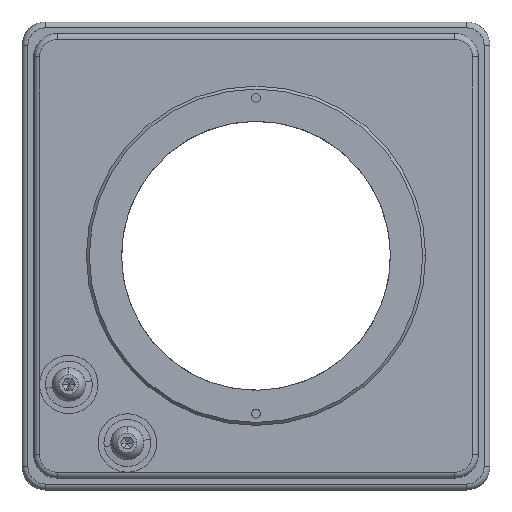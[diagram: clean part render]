
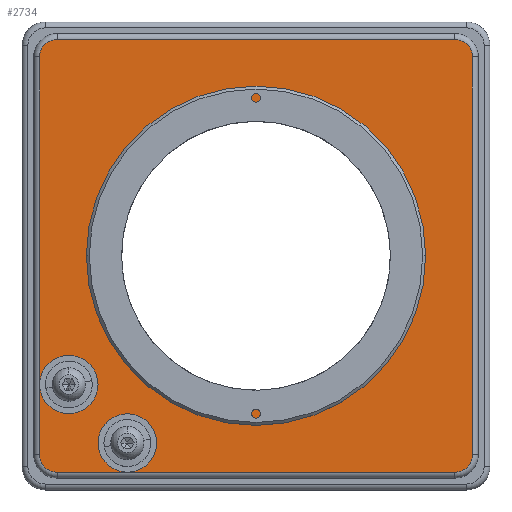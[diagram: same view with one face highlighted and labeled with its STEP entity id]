
A CAD part, top view. The second image highlights one B-rep face of the part: STEP entity #2734.
In plain terms, the highlighted planar face has unit normal (0, 0, 1).
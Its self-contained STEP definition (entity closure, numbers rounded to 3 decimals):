
#64 = ORIENTED_EDGE ( 'NONE', *, *, #5075, .F. ) ;
#97 = ORIENTED_EDGE ( 'NONE', *, *, #2514, .T. ) ;
#241 = EDGE_CURVE ( 'NONE', #3103, #1320, #3964, .T. ) ;
#246 = AXIS2_PLACEMENT_3D ( 'NONE', #5133, #5118, #3968 ) ;
#307 = EDGE_CURVE ( 'NONE', #693, #1641, #5311, .T. ) ;
#540 = AXIS2_PLACEMENT_3D ( 'NONE', #5114, #5024, #4965 ) ;
#693 = VERTEX_POINT ( 'NONE', #7740 ) ;
#713 = LINE ( 'NONE', #6314, #2739 ) ;
#773 = CIRCLE ( 'NONE', #3321, 5. ) ;
#886 = VERTEX_POINT ( 'NONE', #2169 ) ;
#977 = ORIENTED_EDGE ( 'NONE', *, *, #4049, .T. ) ;
#1016 = EDGE_CURVE ( 'NONE', #693, #3817, #7004, .T. ) ;
#1133 = VERTEX_POINT ( 'NONE', #5759 ) ;
#1178 = CARTESIAN_POINT ( 'NONE',  ( -34., -34., 18. ) ) ;
#1291 = EDGE_CURVE ( 'NONE', #1133, #3945, #1798, .T. ) ;
#1320 = VERTEX_POINT ( 'NONE', #7647 ) ;
#1436 = VERTEX_POINT ( 'NONE', #6091 ) ;
#1541 = ORIENTED_EDGE ( 'NONE', *, *, #3202, .T. ) ;
#1570 = DIRECTION ( 'NONE',  ( 1., 0., 0. ) ) ;
#1641 = VERTEX_POINT ( 'NONE', #3670 ) ;
#1771 = DIRECTION ( 'NONE',  ( 0., 0., 1. ) ) ;
#1776 = DIRECTION ( 'NONE',  ( 1., 0., 0. ) ) ;
#1798 = CIRCLE ( 'NONE', #5393, 3. ) ;
#1995 = AXIS2_PLACEMENT_3D ( 'NONE', #5243, #2656, #4781 ) ;
#2009 = CARTESIAN_POINT ( 'NONE',  ( -34., 37., 18. ) ) ;
#2017 = ORIENTED_EDGE ( 'NONE', *, *, #7833, .T. ) ;
#2067 = DIRECTION ( 'NONE',  ( 1., 0., 0. ) ) ;
#2120 = CARTESIAN_POINT ( 'NONE',  ( 34., -37., 18. ) ) ;
#2169 = CARTESIAN_POINT ( 'NONE',  ( -37., 34., 18. ) ) ;
#2270 = CARTESIAN_POINT ( 'NONE',  ( -32., -22., 18. ) ) ;
#2291 = DIRECTION ( 'NONE',  ( 0., 0., 1. ) ) ;
#2314 = LINE ( 'NONE', #2498, #5555 ) ;
#2330 = DIRECTION ( 'NONE',  ( 1., 0., 0. ) ) ;
#2389 = ORIENTED_EDGE ( 'NONE', *, *, #3824, .T. ) ;
#2398 = CARTESIAN_POINT ( 'NONE',  ( -22., -32., 18. ) ) ;
#2460 = AXIS2_PLACEMENT_3D ( 'NONE', #3271, #7291, #7223 ) ;
#2478 = DIRECTION ( 'NONE',  ( 0., -1., 0. ) ) ;
#2498 = CARTESIAN_POINT ( 'NONE',  ( -37., -34., 18. ) ) ;
#2514 = EDGE_CURVE ( 'NONE', #3945, #1436, #8174, .T. ) ;
#2656 = DIRECTION ( 'NONE',  ( 0., 0., 1. ) ) ;
#2702 = VERTEX_POINT ( 'NONE', #3242 ) ;
#2734 = ADVANCED_FACE ( 'NONE', ( #7304, #7193 ), #2916, .T. ) ;
#2739 = VECTOR ( 'NONE', #4944, 1000. ) ;
#2916 = PLANE ( 'NONE',  #1995 ) ;
#2930 = CIRCLE ( 'NONE', #2460, 25.25 ) ;
#3028 = CARTESIAN_POINT ( 'NONE',  ( 25.25, 0., 18. ) ) ;
#3093 = ORIENTED_EDGE ( 'NONE', *, *, #3254, .F. ) ;
#3103 = VERTEX_POINT ( 'NONE', #4089 ) ;
#3131 = CIRCLE ( 'NONE', #540, 25.25 ) ;
#3202 = EDGE_CURVE ( 'NONE', #2702, #1320, #713, .T. ) ;
#3242 = CARTESIAN_POINT ( 'NONE',  ( -34., -37., 18. ) ) ;
#3254 = EDGE_CURVE ( 'NONE', #7475, #7113, #2930, .T. ) ;
#3271 = CARTESIAN_POINT ( 'NONE',  ( 0., 0., 18. ) ) ;
#3281 = ORIENTED_EDGE ( 'NONE', *, *, #4595, .T. ) ;
#3321 = AXIS2_PLACEMENT_3D ( 'NONE', #4588, #4600, #4619 ) ;
#3393 = DIRECTION ( 'NONE',  ( 0., 1., 0. ) ) ;
#3451 = ORIENTED_EDGE ( 'NONE', *, *, #6808, .T. ) ;
#3472 = ORIENTED_EDGE ( 'NONE', *, *, #1291, .T. ) ;
#3489 = ORIENTED_EDGE ( 'NONE', *, *, #1016, .F. ) ;
#3670 = CARTESIAN_POINT ( 'NONE',  ( -37., -34., 18. ) ) ;
#3708 = CARTESIAN_POINT ( 'NONE',  ( 34., 37., 18. ) ) ;
#3719 = AXIS2_PLACEMENT_3D ( 'NONE', #2270, #2291, #2330 ) ;
#3733 = DIRECTION ( 'NONE',  ( 0., 0., 1. ) ) ;
#3817 = VERTEX_POINT ( 'NONE', #4309 ) ;
#3824 = EDGE_CURVE ( 'NONE', #6310, #886, #6852, .T. ) ;
#3862 = VERTEX_POINT ( 'NONE', #3708 ) ;
#3880 = ORIENTED_EDGE ( 'NONE', *, *, #241, .F. ) ;
#3925 = VECTOR ( 'NONE', #7471, 1000. ) ;
#3945 = VERTEX_POINT ( 'NONE', #6213 ) ;
#3964 = CIRCLE ( 'NONE', #6018, 5. ) ;
#3968 = DIRECTION ( 'NONE',  ( 1., 0., 0. ) ) ;
#4049 = EDGE_CURVE ( 'NONE', #1436, #3862, #8060, .T. ) ;
#4089 = CARTESIAN_POINT ( 'NONE',  ( -27., -32., 18. ) ) ;
#4114 = EDGE_CURVE ( 'NONE', #1320, #6847, #7631, .T. ) ;
#4225 = VECTOR ( 'NONE', #2067, 1000. ) ;
#4233 = LINE ( 'NONE', #7463, #3925 ) ;
#4271 = ORIENTED_EDGE ( 'NONE', *, *, #6845, .T. ) ;
#4309 = CARTESIAN_POINT ( 'NONE',  ( -27., -22., 18. ) ) ;
#4395 = AXIS2_PLACEMENT_3D ( 'NONE', #1178, #3733, #4969 ) ;
#4588 = CARTESIAN_POINT ( 'NONE',  ( -32., -22., 18. ) ) ;
#4595 = EDGE_CURVE ( 'NONE', #1641, #2702, #6658, .T. ) ;
#4600 = DIRECTION ( 'NONE',  ( 0., 0., 1. ) ) ;
#4619 = DIRECTION ( 'NONE',  ( 1., 0., 0. ) ) ;
#4781 = DIRECTION ( 'NONE',  ( 1., 0., 0. ) ) ;
#4944 = DIRECTION ( 'NONE',  ( 1., 0., 0. ) ) ;
#4965 = DIRECTION ( 'NONE',  ( 1., 0., 0. ) ) ;
#4969 = DIRECTION ( 'NONE',  ( 1., 0., 0. ) ) ;
#4987 = LINE ( 'NONE', #2120, #4225 ) ;
#5024 = DIRECTION ( 'NONE',  ( 0., 0., 1. ) ) ;
#5075 = EDGE_CURVE ( 'NONE', #7113, #7475, #3131, .T. ) ;
#5091 = CARTESIAN_POINT ( 'NONE',  ( 34., 34., 18. ) ) ;
#5112 = VECTOR ( 'NONE', #5395, 1000. ) ;
#5114 = CARTESIAN_POINT ( 'NONE',  ( 0., 0., 18. ) ) ;
#5118 = DIRECTION ( 'NONE',  ( 0., 0., 1. ) ) ;
#5133 = CARTESIAN_POINT ( 'NONE',  ( -34., 34., 18. ) ) ;
#5163 = DIRECTION ( 'NONE',  ( 0., 0., 1. ) ) ;
#5188 = DIRECTION ( 'NONE',  ( 1., 0., 0. ) ) ;
#5243 = CARTESIAN_POINT ( 'NONE',  ( -38., -38., 18. ) ) ;
#5307 = DIRECTION ( 'NONE',  ( 0., 0., 1. ) ) ;
#5311 = LINE ( 'NONE', #7359, #5112 ) ;
#5315 = DIRECTION ( 'NONE',  ( 1., 0., 0. ) ) ;
#5393 = AXIS2_PLACEMENT_3D ( 'NONE', #7394, #7375, #7469 ) ;
#5395 = DIRECTION ( 'NONE',  ( 0., -1., 0. ) ) ;
#5475 = CARTESIAN_POINT ( 'NONE',  ( -22., -32., 18. ) ) ;
#5555 = VECTOR ( 'NONE', #2478, 1000. ) ;
#5759 = CARTESIAN_POINT ( 'NONE',  ( 34., -37., 18. ) ) ;
#5852 = CIRCLE ( 'NONE', #7618, 5. ) ;
#5987 = EDGE_CURVE ( 'NONE', #6847, #3103, #5852, .T. ) ;
#6018 = AXIS2_PLACEMENT_3D ( 'NONE', #5475, #5307, #5315 ) ;
#6091 = CARTESIAN_POINT ( 'NONE',  ( 37., 34., 18. ) ) ;
#6097 = EDGE_LOOP ( 'NONE', ( #3489, #7380, #3281, #1541, #3880, #6154, #7768, #3451, #3472, #97, #977, #4271, #2389, #2017, #7182 ) ) ;
#6154 = ORIENTED_EDGE ( 'NONE', *, *, #5987, .F. ) ;
#6213 = CARTESIAN_POINT ( 'NONE',  ( 37., -34., 18. ) ) ;
#6310 = VERTEX_POINT ( 'NONE', #2009 ) ;
#6314 = CARTESIAN_POINT ( 'NONE',  ( 34., -37., 18. ) ) ;
#6657 = CARTESIAN_POINT ( 'NONE',  ( -25.25, 0., 18. ) ) ;
#6658 = CIRCLE ( 'NONE', #4395, 3. ) ;
#6737 = CARTESIAN_POINT ( 'NONE',  ( 37., 34., 18. ) ) ;
#6808 = EDGE_CURVE ( 'NONE', #1320, #1133, #4987, .T. ) ;
#6845 = EDGE_CURVE ( 'NONE', #3862, #6310, #4233, .T. ) ;
#6847 = VERTEX_POINT ( 'NONE', #7366 ) ;
#6852 = CIRCLE ( 'NONE', #246, 3. ) ;
#6954 = EDGE_LOOP ( 'NONE', ( #3093, #64 ) ) ;
#7004 = CIRCLE ( 'NONE', #3719, 5. ) ;
#7113 = VERTEX_POINT ( 'NONE', #6657 ) ;
#7182 = ORIENTED_EDGE ( 'NONE', *, *, #7251, .F. ) ;
#7193 = FACE_BOUND ( 'NONE', #6954, .T. ) ;
#7223 = DIRECTION ( 'NONE',  ( 1., 0., 0. ) ) ;
#7251 = EDGE_CURVE ( 'NONE', #3817, #693, #773, .T. ) ;
#7291 = DIRECTION ( 'NONE',  ( 0., 0., 1. ) ) ;
#7304 = FACE_OUTER_BOUND ( 'NONE', #6097, .T. ) ;
#7315 = AXIS2_PLACEMENT_3D ( 'NONE', #2398, #7919, #1570 ) ;
#7359 = CARTESIAN_POINT ( 'NONE',  ( -37., -34., 18. ) ) ;
#7366 = CARTESIAN_POINT ( 'NONE',  ( -17., -32., 18. ) ) ;
#7375 = DIRECTION ( 'NONE',  ( 0., 0., 1. ) ) ;
#7380 = ORIENTED_EDGE ( 'NONE', *, *, #307, .T. ) ;
#7394 = CARTESIAN_POINT ( 'NONE',  ( 34., -34., 18. ) ) ;
#7463 = CARTESIAN_POINT ( 'NONE',  ( -34., 37., 18. ) ) ;
#7469 = DIRECTION ( 'NONE',  ( 1., 0., 0. ) ) ;
#7471 = DIRECTION ( 'NONE',  ( -1., 0., 0. ) ) ;
#7475 = VERTEX_POINT ( 'NONE', #3028 ) ;
#7618 = AXIS2_PLACEMENT_3D ( 'NONE', #7642, #1771, #1776 ) ;
#7631 = CIRCLE ( 'NONE', #7315, 5. ) ;
#7640 = AXIS2_PLACEMENT_3D ( 'NONE', #5091, #5163, #5188 ) ;
#7642 = CARTESIAN_POINT ( 'NONE',  ( -22., -32., 18. ) ) ;
#7647 = CARTESIAN_POINT ( 'NONE',  ( -22., -37., 18. ) ) ;
#7740 = CARTESIAN_POINT ( 'NONE',  ( -37., -22., 18. ) ) ;
#7768 = ORIENTED_EDGE ( 'NONE', *, *, #4114, .F. ) ;
#7833 = EDGE_CURVE ( 'NONE', #886, #693, #2314, .T. ) ;
#7919 = DIRECTION ( 'NONE',  ( 0., 0., 1. ) ) ;
#8060 = CIRCLE ( 'NONE', #7640, 3. ) ;
#8173 = VECTOR ( 'NONE', #3393, 1000. ) ;
#8174 = LINE ( 'NONE', #6737, #8173 ) ;
